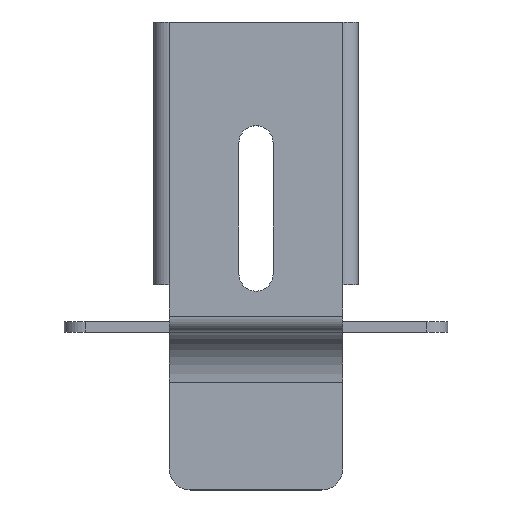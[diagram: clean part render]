
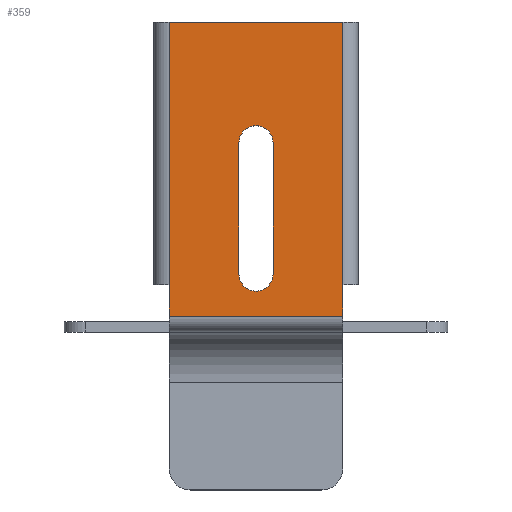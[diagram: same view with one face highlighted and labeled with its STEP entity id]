
A CAD part, top view. The second image highlights one B-rep face of the part: STEP entity #359.
In plain terms, the highlighted planar face has unit normal (0, 0, 1).
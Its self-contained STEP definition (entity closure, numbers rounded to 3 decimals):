
#26 = EDGE_CURVE ( 'NONE', #2063, #2064, #1813, .T. ) ;
#33 = EDGE_CURVE ( 'NONE', #2072, #2083, #1828, .T. ) ;
#41 = EDGE_CURVE ( 'NONE', #2071, #2072, #1844, .T. ) ;
#49 = EDGE_CURVE ( 'NONE', #2083, #2060, #1855, .T. ) ;
#54 = EDGE_CURVE ( 'NONE', #2060, #2068, #1869, .T. ) ;
#57 = EDGE_CURVE ( 'NONE', #2059, #2063, #1872, .T. ) ;
#62 = EDGE_CURVE ( 'NONE', #2064, #2056, #1881, .T. ) ;
#66 = EDGE_CURVE ( 'NONE', #2065, #2068, #1884, .T. ) ;
#68 = EDGE_CURVE ( 'NONE', #2056, #2059, #1888, .T. ) ;
#72 = EDGE_CURVE ( 'NONE', #2065, #2071, #1892, .T. ) ;
#150 = AXIS2_PLACEMENT_3D ( 'NONE', #2194, #2154, #2114 ) ;
#168 = AXIS2_PLACEMENT_3D ( 'NONE', #2218, #2225, #2253 ) ;
#359 = ADVANCED_FACE ( 'NONE', ( #1386, #1392 ), #744, .F. ) ;
#657 = DIRECTION ( 'NONE',  ( 0., 0., -1. ) ) ;
#744 = PLANE ( 'NONE',  #1503 ) ;
#768 = CARTESIAN_POINT ( 'NONE',  ( 17.5, 25., 0. ) ) ;
#785 = DIRECTION ( 'NONE',  ( -1., 0., 0. ) ) ;
#1043 = CARTESIAN_POINT ( 'NONE',  ( 16.5, 25., 0. ) ) ;
#1054 = CARTESIAN_POINT ( 'NONE',  ( 16.5, -25., 0. ) ) ;
#1055 = CARTESIAN_POINT ( 'NONE',  ( 16.5, -31., 0. ) ) ;
#1176 = CARTESIAN_POINT ( 'NONE',  ( 3.25, 2., 0. ) ) ;
#1221 = CARTESIAN_POINT ( 'NONE',  ( -16.5, -25., 0. ) ) ;
#1223 = CARTESIAN_POINT ( 'NONE',  ( -3.25, -23., 0. ) ) ;
#1224 = CARTESIAN_POINT ( 'NONE',  ( 3.25, -23., 0. ) ) ;
#1227 = CARTESIAN_POINT ( 'NONE',  ( -3.25, 2., 0. ) ) ;
#1231 = CARTESIAN_POINT ( 'NONE',  ( -16.5, -31., 0. ) ) ;
#1233 = CARTESIAN_POINT ( 'NONE',  ( -16.5, 25., 0. ) ) ;
#1386 = FACE_BOUND ( 'NONE', #1577, .T. ) ;
#1392 = FACE_OUTER_BOUND ( 'NONE', #1583, .T. ) ;
#1503 = AXIS2_PLACEMENT_3D ( 'NONE', #768, #657, #785 ) ;
#1577 = EDGE_LOOP ( 'NONE', ( #2494, #2495, #2496, #2505 ) ) ;
#1583 = EDGE_LOOP ( 'NONE', ( #2295, #2296, #2492, #2503, #2504, #2487 ) ) ;
#1813 = CIRCLE ( 'NONE', #168, 3.25 ) ;
#1828 = LINE ( 'NONE', #2202, #1833 ) ;
#1833 = VECTOR ( 'NONE', #2188, 1000. ) ;
#1844 = LINE ( 'NONE', #2211, #1847 ) ;
#1847 = VECTOR ( 'NONE', #2184, 1000. ) ;
#1855 = LINE ( 'NONE', #2103, #1862 ) ;
#1862 = VECTOR ( 'NONE', #2191, 1000. ) ;
#1869 = LINE ( 'NONE', #2205, #1871 ) ;
#1871 = VECTOR ( 'NONE', #2190, 1000. ) ;
#1872 = LINE ( 'NONE', #2166, #1877 ) ;
#1877 = VECTOR ( 'NONE', #2171, 1000. ) ;
#1881 = LINE ( 'NONE', #2224, #1883 ) ;
#1883 = VECTOR ( 'NONE', #2150, 1000. ) ;
#1884 = LINE ( 'NONE', #2156, #1889 ) ;
#1888 = CIRCLE ( 'NONE', #150, 3.25 ) ;
#1889 = VECTOR ( 'NONE', #2155, 1000. ) ;
#1892 = LINE ( 'NONE', #2161, #1900 ) ;
#1900 = VECTOR ( 'NONE', #2122, 1000. ) ;
#2056 = VERTEX_POINT ( 'NONE', #1176 ) ;
#2059 = VERTEX_POINT ( 'NONE', #1227 ) ;
#2060 = VERTEX_POINT ( 'NONE', #1233 ) ;
#2063 = VERTEX_POINT ( 'NONE', #1223 ) ;
#2064 = VERTEX_POINT ( 'NONE', #1224 ) ;
#2065 = VERTEX_POINT ( 'NONE', #1231 ) ;
#2068 = VERTEX_POINT ( 'NONE', #1221 ) ;
#2071 = VERTEX_POINT ( 'NONE', #1055 ) ;
#2072 = VERTEX_POINT ( 'NONE', #1054 ) ;
#2083 = VERTEX_POINT ( 'NONE', #1043 ) ;
#2103 = CARTESIAN_POINT ( 'NONE',  ( -17.5, 25., 0. ) ) ;
#2114 = DIRECTION ( 'NONE',  ( 1., 0., 0. ) ) ;
#2122 = DIRECTION ( 'NONE',  ( 1., 0., 0. ) ) ;
#2150 = DIRECTION ( 'NONE',  ( 0., 1., 0. ) ) ;
#2154 = DIRECTION ( 'NONE',  ( 0., 0., 1. ) ) ;
#2155 = DIRECTION ( 'NONE',  ( 0., 1., 0. ) ) ;
#2156 = CARTESIAN_POINT ( 'NONE',  ( -16.5, -31., 0. ) ) ;
#2161 = CARTESIAN_POINT ( 'NONE',  ( -16.5, -31., 0. ) ) ;
#2166 = CARTESIAN_POINT ( 'NONE',  ( -3.25, 2., 0. ) ) ;
#2171 = DIRECTION ( 'NONE',  ( 0., -1., 0. ) ) ;
#2184 = DIRECTION ( 'NONE',  ( 0., 1., 0. ) ) ;
#2188 = DIRECTION ( 'NONE',  ( 0., 1., 0. ) ) ;
#2190 = DIRECTION ( 'NONE',  ( 0., -1., 0. ) ) ;
#2191 = DIRECTION ( 'NONE',  ( -1., 0., 0. ) ) ;
#2194 = CARTESIAN_POINT ( 'NONE',  ( 0., 2., 0. ) ) ;
#2202 = CARTESIAN_POINT ( 'NONE',  ( 16.5, -25., 0. ) ) ;
#2205 = CARTESIAN_POINT ( 'NONE',  ( -16.5, 25., 0. ) ) ;
#2211 = CARTESIAN_POINT ( 'NONE',  ( 16.5, -31., 0. ) ) ;
#2218 = CARTESIAN_POINT ( 'NONE',  ( 0., -23., 0. ) ) ;
#2224 = CARTESIAN_POINT ( 'NONE',  ( 3.25, 2., 0. ) ) ;
#2225 = DIRECTION ( 'NONE',  ( 0., 0., 1. ) ) ;
#2253 = DIRECTION ( 'NONE',  ( 1., 0., 0. ) ) ;
#2295 = ORIENTED_EDGE ( 'NONE', *, *, #54, .T. ) ;
#2296 = ORIENTED_EDGE ( 'NONE', *, *, #66, .F. ) ;
#2487 = ORIENTED_EDGE ( 'NONE', *, *, #49, .T. ) ;
#2492 = ORIENTED_EDGE ( 'NONE', *, *, #72, .T. ) ;
#2494 = ORIENTED_EDGE ( 'NONE', *, *, #57, .F. ) ;
#2495 = ORIENTED_EDGE ( 'NONE', *, *, #68, .F. ) ;
#2496 = ORIENTED_EDGE ( 'NONE', *, *, #62, .F. ) ;
#2503 = ORIENTED_EDGE ( 'NONE', *, *, #41, .T. ) ;
#2504 = ORIENTED_EDGE ( 'NONE', *, *, #33, .T. ) ;
#2505 = ORIENTED_EDGE ( 'NONE', *, *, #26, .F. ) ;
